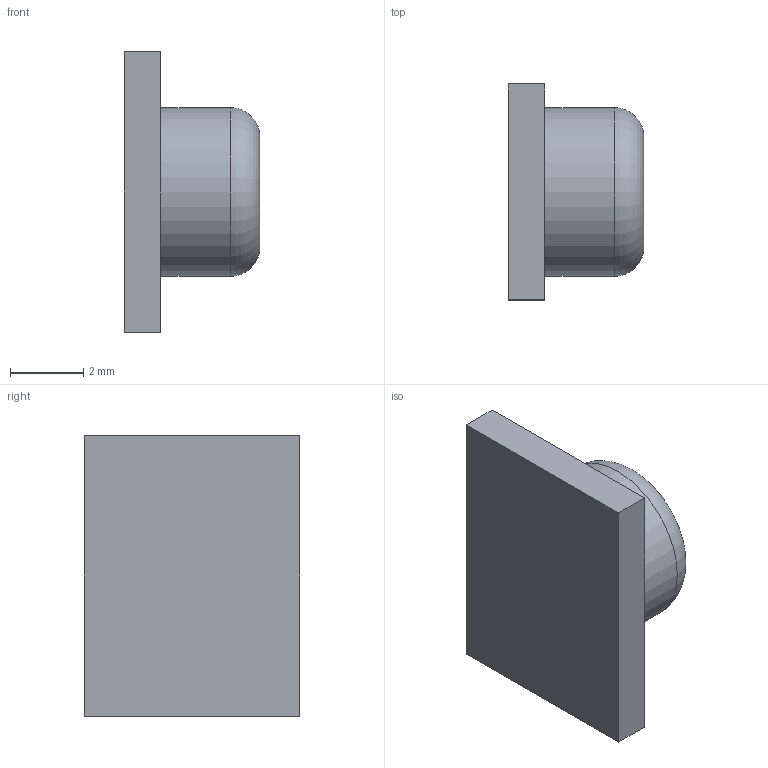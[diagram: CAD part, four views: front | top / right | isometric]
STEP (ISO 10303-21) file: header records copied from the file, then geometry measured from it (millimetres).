
FILE_DESCRIPTION(('HOOPS Exchange Step'),'2;1');
FILE_NAME('/private/var/mobile/Containers/Data/Application/6CA7BBC5-1316-439E-A042-ED4FE808E911/tmp/export/temp_export','2026-07-31T15:04:32-05:00',('mobile'),('Shapr3D Limited'),'HOOPS Exchange 2026.3','Shapr3D','Authorized');
FILE_SCHEMA( ('AP242_MANAGED_MODEL_BASED_3D_ENGINEERING_MIM_LF {1 0 10303 442 1 1 4}') );
Length unit declared in the file: millimetre
Products named in the file (1): root
Bounding box: 3.7 x 5.88 x 7.65 mm (x, y, z)
Volume: 88 mm3; surface area: 150.7 mm2
Topology: 1 solids, 1 shells, 9 faces, 19 edges, 13 vertices
Faces by surface type: plane 7, cylinder 1, torus 1
Full cylindrical faces by diameter (mm): 4.6 x1
Entity records: 283 total; most frequent: DIRECTION 47, CARTESIAN_POINT 43, ORIENTED_EDGE 38, EDGE_CURVE 19, AXIS2_PLACEMENT_3D 17, VERTEX_POINT 13, VECTOR 13, LINE 13
